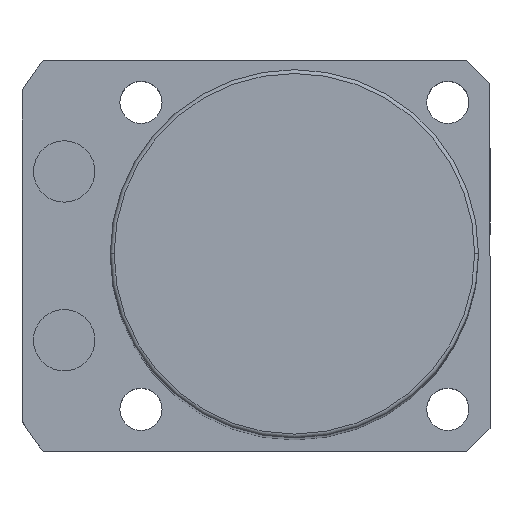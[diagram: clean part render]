
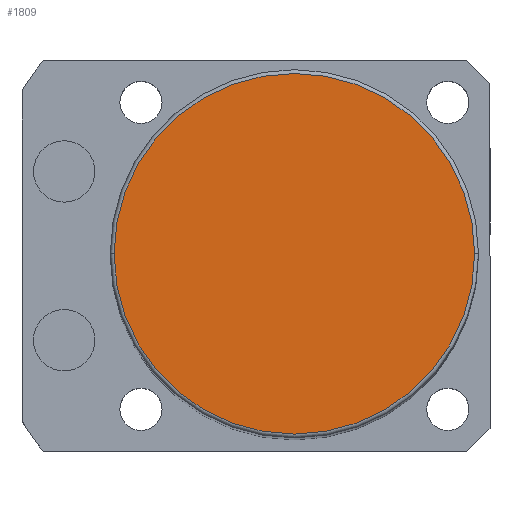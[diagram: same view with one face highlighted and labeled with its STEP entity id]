
A CAD part, top view. The second image highlights one B-rep face of the part: STEP entity #1809.
In plain terms, the highlighted planar face has unit normal (0, 0, 1).
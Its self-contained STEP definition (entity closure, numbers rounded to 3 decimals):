
#178 = CARTESIAN_POINT ( 'NONE',  ( 0., 0., 166. ) ) ;
#369 = DIRECTION ( 'NONE',  ( 1., 0., 0. ) ) ;
#549 = PLANE ( 'NONE',  #766 ) ;
#556 = CARTESIAN_POINT ( 'NONE',  ( 23.5, 0., 166. ) ) ;
#617 = CIRCLE ( 'NONE', #1615, 23.5 ) ;
#697 = CARTESIAN_POINT ( 'NONE',  ( 0., 0., 166. ) ) ;
#731 = DIRECTION ( 'NONE',  ( 0., 0., 1. ) ) ;
#766 = AXIS2_PLACEMENT_3D ( 'NONE', #884, #731, #1817 ) ;
#877 = ORIENTED_EDGE ( 'NONE', *, *, #1821, .T. ) ;
#884 = CARTESIAN_POINT ( 'NONE',  ( 0., 0., 166. ) ) ;
#896 = EDGE_CURVE ( 'NONE', #1918, #940, #617, .T. ) ;
#940 = VERTEX_POINT ( 'NONE', #556 ) ;
#1200 = EDGE_LOOP ( 'NONE', ( #877, #1386 ) ) ;
#1386 = ORIENTED_EDGE ( 'NONE', *, *, #896, .T. ) ;
#1477 = DIRECTION ( 'NONE',  ( 0., 0., 1. ) ) ;
#1615 = AXIS2_PLACEMENT_3D ( 'NONE', #178, #1477, #369 ) ;
#1627 = DIRECTION ( 'NONE',  ( 0., 0., 1. ) ) ;
#1809 = ADVANCED_FACE ( 'NONE', ( #2222 ), #549, .T. ) ;
#1817 = DIRECTION ( 'NONE',  ( 1., 0., 0. ) ) ;
#1821 = EDGE_CURVE ( 'NONE', #940, #1918, #2278, .T. ) ;
#1918 = VERTEX_POINT ( 'NONE', #2388 ) ;
#2191 = DIRECTION ( 'NONE',  ( 1., 0., 0. ) ) ;
#2222 = FACE_OUTER_BOUND ( 'NONE', #1200, .T. ) ;
#2278 = CIRCLE ( 'NONE', #2363, 23.5 ) ;
#2363 = AXIS2_PLACEMENT_3D ( 'NONE', #697, #1627, #2191 ) ;
#2388 = CARTESIAN_POINT ( 'NONE',  ( -23.5, 0., 166. ) ) ;
